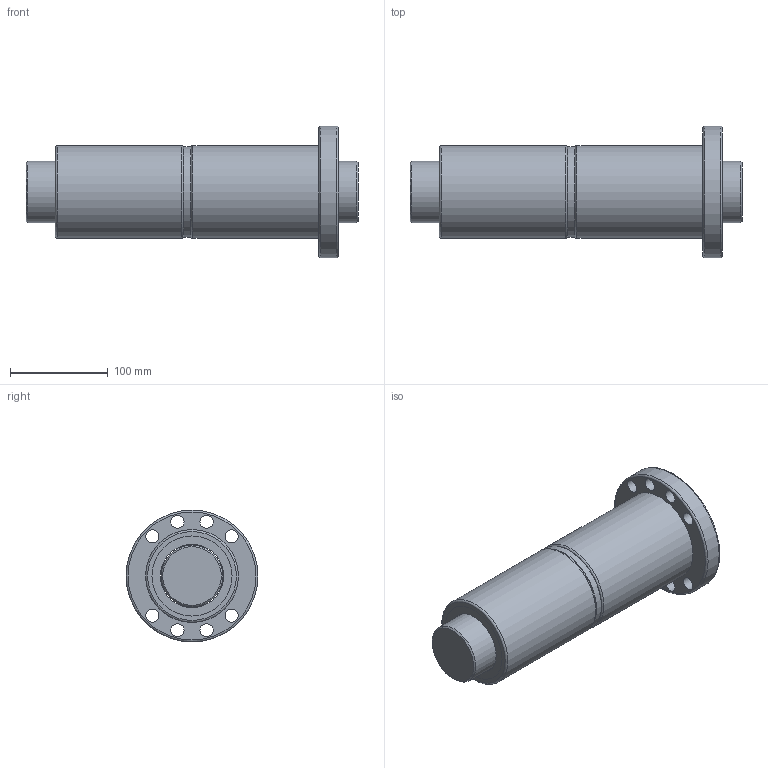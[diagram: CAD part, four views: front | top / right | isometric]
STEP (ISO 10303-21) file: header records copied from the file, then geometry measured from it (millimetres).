
FILE_DESCRIPTION(/* description */ (''),/* implementation_level */ '2;1');
FILE_NAME(/* name */ 'DFU6320',/* time_stamp */ '2007-10-26T11:01:07+08:00',/* author */ (''),/* organization */ (''),/* preprocessor_version */ 'ST-DEVELOPER v9',/* originating_system */ 'EDS PLM SOLUTIONS - UNIGRAPHICS NX 1.0',/* authorisation */ '');
FILE_SCHEMA (('CONFIG_CONTROL_DESIGN'));
Length unit declared in the file: millimetre
Products named in the file (1): FANNDA0400d7
Bounding box: 340 x 135 x 135 mm (x, y, z)
Volume: 2266506.6 mm3; surface area: 276952.4 mm2
Topology: 6 solids, 6 shells, 46 faces, 91 edges, 60 vertices
Faces by surface type: cylinder 22, plane 15, torus 7, cone 2
Full cylindrical faces by diameter (mm): 13.5 x8, 63 x1, 65 x5, 82 x4, 93 x1, 95 x2, 135 x1
Entity records: 1122 total; most frequent: DIRECTION 200, CARTESIAN_POINT 153, EDGE_LOOP 106, ORIENTED_EDGE 106, AXIS2_PLACEMENT_3D 100, FACE_BOUND 89, VERTEX_POINT 53, EDGE_CURVE 53
